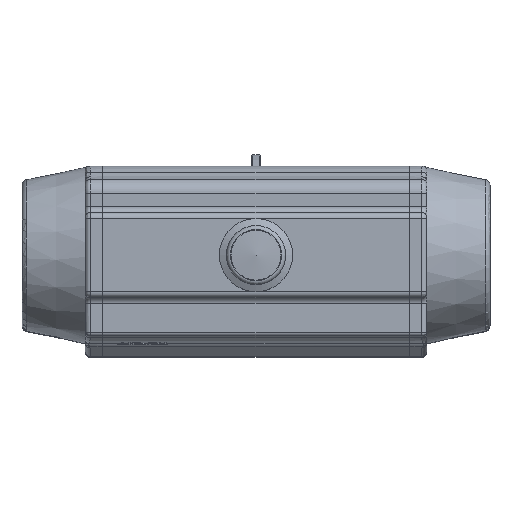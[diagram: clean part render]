
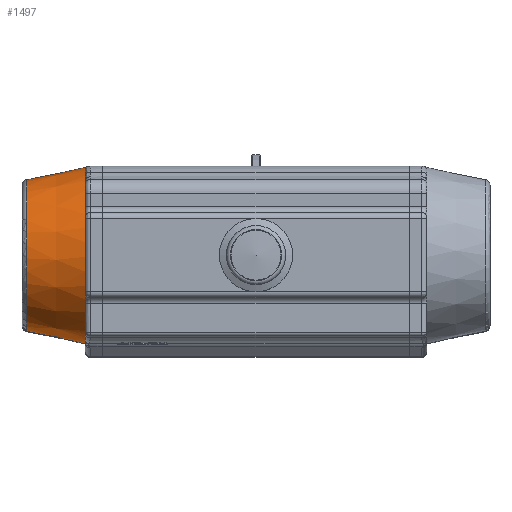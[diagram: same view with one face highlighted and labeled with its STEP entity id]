
A CAD part, top view. The second image highlights one B-rep face of the part: STEP entity #1497.
In plain terms, the highlighted conical face has half-angle 12 degrees and reference radius 88 mm.
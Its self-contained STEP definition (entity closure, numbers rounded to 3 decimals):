
#1497 = ADVANCED_FACE( '', ( #3194, #3195 ), #3196, .T. );
#3194 = FACE_BOUND( '', #9016, .T. );
#3195 = FACE_OUTER_BOUND( '', #9017, .T. );
#3196 = CONICAL_SURFACE( '', #9018, 88., 0.209 );
#9016 = EDGE_LOOP( '', ( #14386 ) );
#9017 = EDGE_LOOP( '', ( #14387, #14388, #14389, #14390, #14391, #14392, #14393, #14394, #14395, #14396, #14397, #14398 ) );
#9018 = AXIS2_PLACEMENT_3D( '', #14399, #14400, #14401 );
#14386 = ORIENTED_EDGE( '', *, *, #17296, .T. );
#14387 = ORIENTED_EDGE( '', *, *, #16529, .F. );
#14388 = ORIENTED_EDGE( '', *, *, #17504, .F. );
#14389 = ORIENTED_EDGE( '', *, *, #16631, .F. );
#14390 = ORIENTED_EDGE( '', *, *, #17440, .F. );
#14391 = ORIENTED_EDGE( '', *, *, #16324, .F. );
#14392 = ORIENTED_EDGE( '', *, *, #17505, .F. );
#14393 = ORIENTED_EDGE( '', *, *, #17506, .F. );
#14394 = ORIENTED_EDGE( '', *, *, #17459, .F. );
#14395 = ORIENTED_EDGE( '', *, *, #16657, .F. );
#14396 = ORIENTED_EDGE( '', *, *, #15869, .F. );
#14397 = ORIENTED_EDGE( '', *, *, #17135, .F. );
#14398 = ORIENTED_EDGE( '', *, *, #17502, .F. );
#14399 = CARTESIAN_POINT( '', ( -170.5, 0., 0. ) );
#14400 = DIRECTION( '', ( 1., 0., 0. ) );
#14401 = DIRECTION( '', ( 0., 0., 1. ) );
#15869 = EDGE_CURVE( '', #17962, #17964, #17965, .T. );
#16324 = EDGE_CURVE( '', #18748, #18743, #18750, .T. );
#16529 = EDGE_CURVE( '', #19077, #19078, #19079, .T. );
#16631 = EDGE_CURVE( '', #19236, #19234, #19238, .T. );
#16657 = EDGE_CURVE( '', #17964, #19269, #19272, .T. );
#17135 = EDGE_CURVE( '', #19940, #17962, #19942, .T. );
#17296 = EDGE_CURVE( '', #20155, #20155, #20156, .T. );
#17440 = EDGE_CURVE( '', #18743, #19236, #20330, .T. );
#17459 = EDGE_CURVE( '', #19269, #20350, #20352, .T. );
#17502 = EDGE_CURVE( '', #19078, #19940, #20404, .T. );
#17504 = EDGE_CURVE( '', #19234, #19077, #20406, .T. );
#17505 = EDGE_CURVE( '', #18237, #18748, #20407, .T. );
#17506 = EDGE_CURVE( '', #20350, #18237, #20408, .T. );
#17962 = VERTEX_POINT( '', #21403 );
#17964 = VERTEX_POINT( '', #21405 );
#17965 = CIRCLE( '', #21406, 88. );
#18237 = VERTEX_POINT( '', #22568 );
#18743 = VERTEX_POINT( '', #24571 );
#18748 = VERTEX_POINT( '', #24607 );
#18750 = CIRCLE( '', #24609, 88. );
#19077 = VERTEX_POINT( '', #25770 );
#19078 = VERTEX_POINT( '', #25771 );
#19079 = CIRCLE( '', #25772, 88. );
#19234 = VERTEX_POINT( '', #26191 );
#19236 = VERTEX_POINT( '', #26193 );
#19238 = CIRCLE( '', #26195, 88. );
#19269 = VERTEX_POINT( '', #26314 );
#19272 = CIRCLE( '', #26346, 88. );
#19940 = VERTEX_POINT( '', #28093 );
#19942 = CIRCLE( '', #28095, 88. );
#20155 = VERTEX_POINT( '', #28874 );
#20156 = CIRCLE( '', #28875, 75.619 );
#20330 = CIRCLE( '', #29553, 88. );
#20350 = VERTEX_POINT( '', #29691 );
#20352 = CIRCLE( '', #29693, 88. );
#20404 = CIRCLE( '', #29911, 88. );
#20406 = CIRCLE( '', #29913, 88. );
#20407 = CIRCLE( '', #29914, 88. );
#20408 = CIRCLE( '', #29915, 88. );
#21403 = CARTESIAN_POINT( '', ( -170.5, 86.398, -16.714 ) );
#21405 = CARTESIAN_POINT( '', ( -170.5, 86.398, 16.714 ) );
#21406 = AXIS2_PLACEMENT_3D( '', #30870, #30871, #30872 );
#22568 = CARTESIAN_POINT( '', ( -170.5, -75.5, 45.208 ) );
#24571 = CARTESIAN_POINT( '', ( -170.5, -85.985, 18.725 ) );
#24607 = CARTESIAN_POINT( '', ( -170.5, -78.996, 38.777 ) );
#24609 = AXIS2_PLACEMENT_3D( '', #31275, #31276, #31277 );
#25770 = CARTESIAN_POINT( '', ( -170.5, -87.949, -2.981 ) );
#25771 = CARTESIAN_POINT( '', ( -170.5, 73.636, -48.184 ) );
#25772 = AXIS2_PLACEMENT_3D( '', #31426, #31427, #31428 );
#26191 = CARTESIAN_POINT( '', ( -170.5, -87.989, 1.37 ) );
#26193 = CARTESIAN_POINT( '', ( -170.5, -86.49, 16.23 ) );
#26195 = AXIS2_PLACEMENT_3D( '', #31526, #31527, #31528 );
#26314 = CARTESIAN_POINT( '', ( -170.5, 79.415, 37.912 ) );
#26346 = AXIS2_PLACEMENT_3D( '', #31541, #31542, #31543 );
#28093 = CARTESIAN_POINT( '', ( -170.5, 79.415, -37.912 ) );
#28095 = AXIS2_PLACEMENT_3D( '', #32046, #32047, #32048 );
#28874 = CARTESIAN_POINT( '', ( -228.747, 0., -75.619 ) );
#28875 = AXIS2_PLACEMENT_3D( '', #32184, #32185, #32186 );
#29553 = AXIS2_PLACEMENT_3D( '', #32300, #32301, #32302 );
#29691 = CARTESIAN_POINT( '', ( -170.5, 73.636, 48.184 ) );
#29693 = AXIS2_PLACEMENT_3D( '', #32320, #32321, #32322 );
#29911 = AXIS2_PLACEMENT_3D( '', #32361, #32362, #32363 );
#29913 = AXIS2_PLACEMENT_3D( '', #32364, #32365, #32366 );
#29914 = AXIS2_PLACEMENT_3D( '', #32367, #32368, #32369 );
#29915 = AXIS2_PLACEMENT_3D( '', #32370, #32371, #32372 );
#30870 = CARTESIAN_POINT( '', ( -170.5, 0., 0. ) );
#30871 = DIRECTION( '', ( 1., 0., 0. ) );
#30872 = DIRECTION( '', ( 0., -1., 0. ) );
#31275 = CARTESIAN_POINT( '', ( -170.5, 0., 0. ) );
#31276 = DIRECTION( '', ( 1., 0., 0. ) );
#31277 = DIRECTION( '', ( 0., -1., 0. ) );
#31426 = CARTESIAN_POINT( '', ( -170.5, 0., 0. ) );
#31427 = DIRECTION( '', ( 1., 0., 0. ) );
#31428 = DIRECTION( '', ( 0., -1., 0. ) );
#31526 = CARTESIAN_POINT( '', ( -170.5, 0., 0. ) );
#31527 = DIRECTION( '', ( 1., 0., 0. ) );
#31528 = DIRECTION( '', ( 0., -1., 0. ) );
#31541 = CARTESIAN_POINT( '', ( -170.5, 0., 0. ) );
#31542 = DIRECTION( '', ( 1., 0., 0. ) );
#31543 = DIRECTION( '', ( 0., -1., 0. ) );
#32046 = CARTESIAN_POINT( '', ( -170.5, 0., 0. ) );
#32047 = DIRECTION( '', ( 1., 0., 0. ) );
#32048 = DIRECTION( '', ( 0., -1., 0. ) );
#32184 = CARTESIAN_POINT( '', ( -228.747, 0., 0. ) );
#32185 = DIRECTION( '', ( 1., 0., 0. ) );
#32186 = DIRECTION( '', ( 0., 0., -1. ) );
#32300 = CARTESIAN_POINT( '', ( -170.5, 0., 0. ) );
#32301 = DIRECTION( '', ( 1., 0., 0. ) );
#32302 = DIRECTION( '', ( 0., -1., 0. ) );
#32320 = CARTESIAN_POINT( '', ( -170.5, 0., 0. ) );
#32321 = DIRECTION( '', ( 1., 0., 0. ) );
#32322 = DIRECTION( '', ( 0., -1., 0. ) );
#32361 = CARTESIAN_POINT( '', ( -170.5, 0., 0. ) );
#32362 = DIRECTION( '', ( 1., 0., 0. ) );
#32363 = DIRECTION( '', ( 0., -1., 0. ) );
#32364 = CARTESIAN_POINT( '', ( -170.5, 0., 0. ) );
#32365 = DIRECTION( '', ( 1., 0., 0. ) );
#32366 = DIRECTION( '', ( 0., -1., 0. ) );
#32367 = CARTESIAN_POINT( '', ( -170.5, 0., 0. ) );
#32368 = DIRECTION( '', ( 1., 0., 0. ) );
#32369 = DIRECTION( '', ( 0., -1., 0. ) );
#32370 = CARTESIAN_POINT( '', ( -170.5, 0., 0. ) );
#32371 = DIRECTION( '', ( 1., 0., 0. ) );
#32372 = DIRECTION( '', ( 0., -1., 0. ) );
